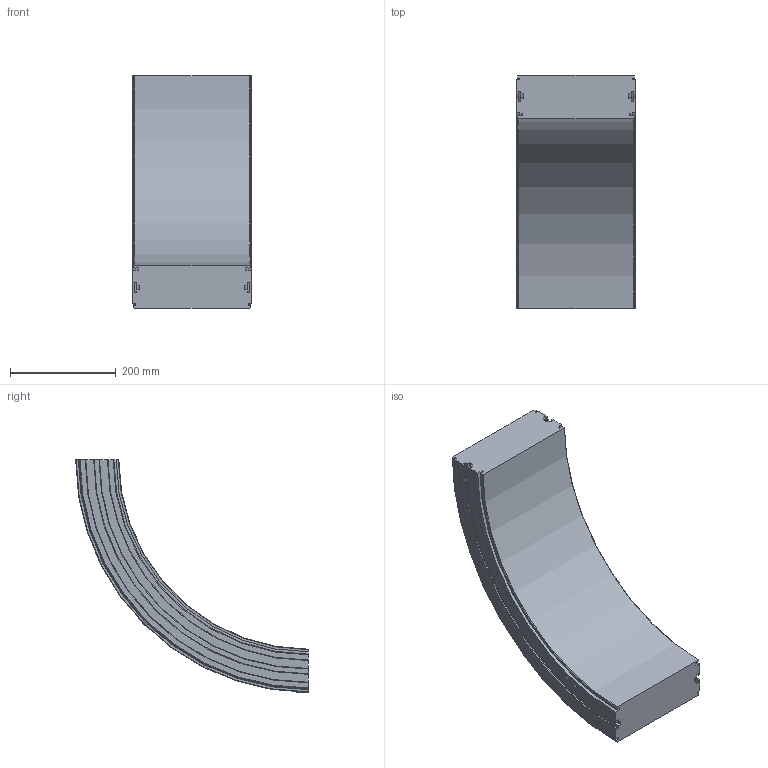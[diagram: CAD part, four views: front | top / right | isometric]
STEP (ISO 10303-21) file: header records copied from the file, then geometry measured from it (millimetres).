
FILE_DESCRIPTION(/* description */ ('VERTIKALKURVA S220 R400'),/* implementation_level */ '2;1');
FILE_NAME(/* name */ '\\carryline.intra\privat\users\mathias\Desktop\Tillfälliga filer\220-5645+220-2000-NER-01.stp',/* time_stamp */ '2018-11-29T13:29:44+01:00',/* author */ ('MD'),/* organization */ ('CARRYLINE'),/* preprocessor_version */ 'ST-DEVELOPER v17',/* originating_system */ 'Autodesk Inventor 2018',/* authorisation */ '');
FILE_SCHEMA (('AUTOMOTIVE_DESIGN { 1 0 10303 214 3 1 1 }'));
Length unit declared in the file: millimetre
Products named in the file (1): 220-5645+220-2000-NER-01
Bounding box: 224 x 439.5 x 439.5 mm (x, y, z)
Volume: 11087106 mm3; surface area: 506485.8 mm2
Topology: 1 solids, 1 shells, 113 faces, 318 edges, 212 vertices
Faces by surface type: plane 48, cylinder 31, bspline 14, cone 14, torus 6
Entity records: 8355 total; most frequent: CARTESIAN_POINT 5387, ORIENTED_EDGE 636, DIRECTION 576, EDGE_CURVE 318, VERTEX_POINT 212, AXIS2_PLACEMENT_3D 199, LINE 178, VECTOR 178
